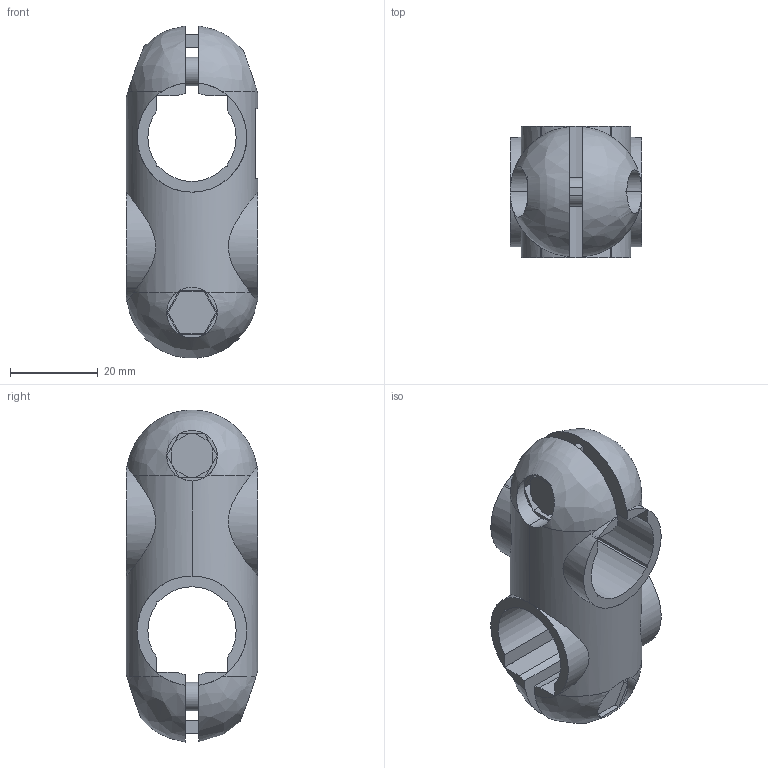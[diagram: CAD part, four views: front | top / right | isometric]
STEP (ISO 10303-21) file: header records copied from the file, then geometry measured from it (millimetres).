
FILE_DESCRIPTION (( 'STEP AP214' ), '1' );
FILE_NAME ('EO 20X20.step', '2017-04-05T07:36:25', ( '' ), ( '' ), 'SwSTEP 2.0', 'SolidWorks 2015', '' );
FILE_SCHEMA (( 'AUTOMOTIVE_DESIGN' ));
Length unit declared in the file: millimetre
Products named in the file (1): EO 20X20
Bounding box: 30 x 30 x 75.79 mm (x, y, z)
Volume: 25838 mm3; surface area: 13279.4 mm2
Topology: 1 solids, 1 shells, 412 faces, 1144 edges, 752 vertices
Faces by surface type: plane 366, cylinder 42, bspline 4
Entity records: 13936 total; most frequent: CARTESIAN_POINT 3174, ORIENTED_EDGE 2288, DIRECTION 2010, EDGE_CURVE 1144, VECTOR 1018, LINE 1018, VERTEX_POINT 752, AXIS2_PLACEMENT_3D 496
